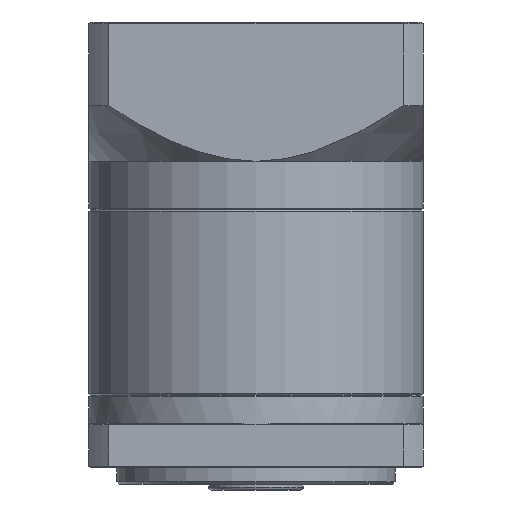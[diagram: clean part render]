
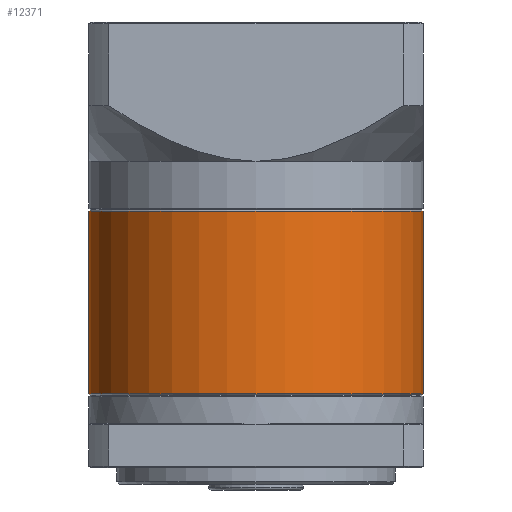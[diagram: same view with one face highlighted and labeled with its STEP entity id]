
A CAD part, front view. The second image highlights one B-rep face of the part: STEP entity #12371.
In plain terms, the highlighted cylindrical face has radius 30 mm (diameter 60 mm), a partial arc.
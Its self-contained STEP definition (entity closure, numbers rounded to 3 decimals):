
#4081 = AXIS2_PLACEMENT_3D ( 'NONE', #57179, #87628, #13259 ) ;
#4923 = LINE ( 'NONE', #73753, #51809 ) ;
#5873 = DIRECTION ( 'NONE',  ( 0., 0., -1. ) ) ;
#6794 = VERTEX_POINT ( 'NONE', #40660 ) ;
#8215 = AXIS2_PLACEMENT_3D ( 'NONE', #65422, #5873, #13398 ) ;
#9333 = ORIENTED_EDGE ( 'NONE', *, *, #15030, .T. ) ;
#9850 = FACE_OUTER_BOUND ( 'NONE', #26731, .T. ) ;
#10267 = DIRECTION ( 'NONE',  ( 0., 0., -1. ) ) ;
#11651 = CARTESIAN_POINT ( 'NONE',  ( -17.069, 33.271, -33.332 ) ) ;
#12371 = ADVANCED_FACE ( 'NONE', ( #9850 ), #22660, .T. ) ;
#13259 = DIRECTION ( 'NONE',  ( 1., 0., 0. ) ) ;
#13398 = DIRECTION ( 'NONE',  ( 1., 0., 0. ) ) ;
#15030 = EDGE_CURVE ( 'NONE', #43771, #53674, #36795, .T. ) ;
#17740 = VERTEX_POINT ( 'NONE', #11651 ) ;
#18998 = VECTOR ( 'NONE', #58206, 1000. ) ;
#22660 = CYLINDRICAL_SURFACE ( 'NONE', #96102, 30. ) ;
#25322 = CARTESIAN_POINT ( 'NONE',  ( -17.069, 33.271, -66.132 ) ) ;
#26731 = EDGE_LOOP ( 'NONE', ( #65260, #53541, #63142, #9333 ) ) ;
#29156 = EDGE_CURVE ( 'NONE', #17740, #6794, #96747, .T. ) ;
#33982 = CARTESIAN_POINT ( 'NONE',  ( -77.069, 33.271, -33.082 ) ) ;
#36795 = CIRCLE ( 'NONE', #4081, 30. ) ;
#37132 = EDGE_CURVE ( 'NONE', #17740, #53674, #4923, .T. ) ;
#40660 = CARTESIAN_POINT ( 'NONE',  ( -77.069, 33.271, -33.332 ) ) ;
#43771 = VERTEX_POINT ( 'NONE', #74005 ) ;
#45270 = DIRECTION ( 'NONE',  ( 0., 0., -1. ) ) ;
#51809 = VECTOR ( 'NONE', #45270, 1000. ) ;
#53541 = ORIENTED_EDGE ( 'NONE', *, *, #29156, .T. ) ;
#53674 = VERTEX_POINT ( 'NONE', #25322 ) ;
#57179 = CARTESIAN_POINT ( 'NONE',  ( -47.069, 33.271, -66.132 ) ) ;
#58206 = DIRECTION ( 'NONE',  ( 0., 0., -1. ) ) ;
#58909 = LINE ( 'NONE', #33982, #18998 ) ;
#63142 = ORIENTED_EDGE ( 'NONE', *, *, #94670, .T. ) ;
#65260 = ORIENTED_EDGE ( 'NONE', *, *, #37132, .F. ) ;
#65422 = CARTESIAN_POINT ( 'NONE',  ( -47.069, 33.271, -33.332 ) ) ;
#73753 = CARTESIAN_POINT ( 'NONE',  ( -17.069, 33.271, -33.082 ) ) ;
#74005 = CARTESIAN_POINT ( 'NONE',  ( -77.069, 33.271, -66.132 ) ) ;
#83921 = DIRECTION ( 'NONE',  ( -1., 0., 0. ) ) ;
#84897 = CARTESIAN_POINT ( 'NONE',  ( -47.069, 33.271, -33.082 ) ) ;
#87628 = DIRECTION ( 'NONE',  ( 0., 0., 1. ) ) ;
#94670 = EDGE_CURVE ( 'NONE', #6794, #43771, #58909, .T. ) ;
#96102 = AXIS2_PLACEMENT_3D ( 'NONE', #84897, #10267, #83921 ) ;
#96747 = CIRCLE ( 'NONE', #8215, 30. ) ;
